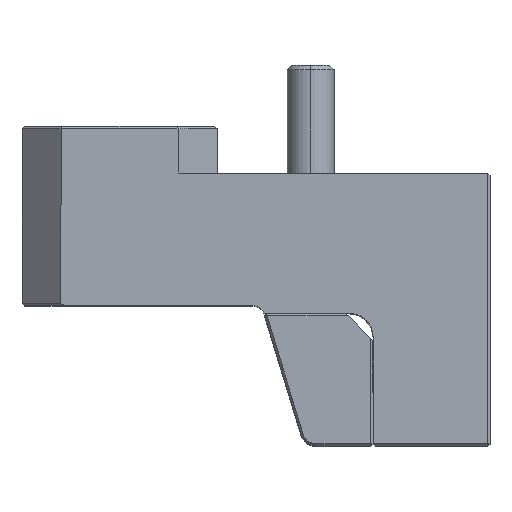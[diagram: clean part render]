
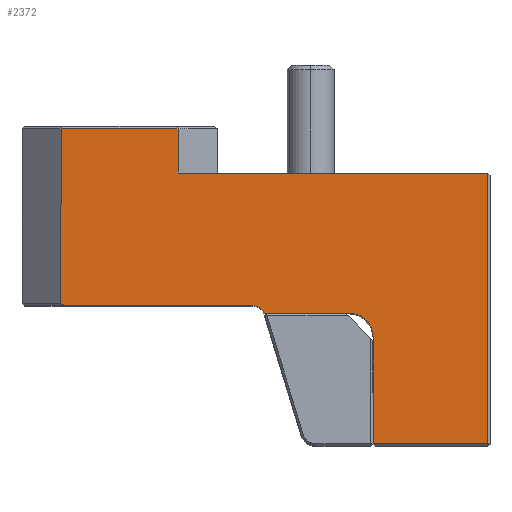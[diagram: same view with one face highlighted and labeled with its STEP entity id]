
A CAD part, top view. The second image highlights one B-rep face of the part: STEP entity #2372.
In plain terms, the highlighted planar face has unit normal (0, 0, 1).
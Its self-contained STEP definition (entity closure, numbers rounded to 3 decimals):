
#40 = VECTOR ( 'NONE', #1511, 1000. ) ;
#41 = AXIS2_PLACEMENT_3D ( 'NONE', #1491, #1516, #1517 ) ;
#43 = VECTOR ( 'NONE', #1482, 1000. ) ;
#51 = VECTOR ( 'NONE', #1501, 1000. ) ;
#216 = VERTEX_POINT ( 'NONE', #3045 ) ;
#238 = VERTEX_POINT ( 'NONE', #3066 ) ;
#251 = VERTEX_POINT ( 'NONE', #3037 ) ;
#539 = CARTESIAN_POINT ( 'NONE',  ( -19.576, 0., 20. ) ) ;
#540 = CARTESIAN_POINT ( 'NONE',  ( 6., -1., 20. ) ) ;
#542 = CARTESIAN_POINT ( 'NONE',  ( -5., 22.7, 20. ) ) ;
#546 = CARTESIAN_POINT ( 'NONE',  ( -5., 17., 20. ) ) ;
#551 = CARTESIAN_POINT ( 'NONE',  ( 20., -17.7, 20. ) ) ;
#571 = CARTESIAN_POINT ( 'NONE',  ( 34.7, -17.7, 20. ) ) ;
#573 = CARTESIAN_POINT ( 'NONE',  ( 20., -4., 20. ) ) ;
#583 = CARTESIAN_POINT ( 'NONE',  ( -20., 22.7, 20. ) ) ;
#586 = CARTESIAN_POINT ( 'NONE',  ( 17., -1., 20. ) ) ;
#1158 = LINE ( 'NONE', #1197, #3433 ) ;
#1163 = DIRECTION ( 'NONE',  ( -1., 0., 0. ) ) ;
#1187 = DIRECTION ( 'NONE',  ( 0., 0., -1. ) ) ;
#1192 = CARTESIAN_POINT ( 'NONE',  ( 17., -4., 20. ) ) ;
#1197 = CARTESIAN_POINT ( 'NONE',  ( -20., -1.5, 20. ) ) ;
#1219 = DIRECTION ( 'NONE',  ( 1., 0., 0. ) ) ;
#1226 = DIRECTION ( 'NONE',  ( 0., -1., 0. ) ) ;
#1232 = CARTESIAN_POINT ( 'NONE',  ( -25., 0., 20. ) ) ;
#1239 = LINE ( 'NONE', #1232, #3431 ) ;
#1266 = LINE ( 'NONE', #1286, #3434 ) ;
#1267 = DIRECTION ( 'NONE',  ( -1., 0., 0. ) ) ;
#1286 = CARTESIAN_POINT ( 'NONE',  ( 4.586, 22.7, 20. ) ) ;
#1480 = CARTESIAN_POINT ( 'NONE',  ( 34.7, -1.5, 20. ) ) ;
#1482 = DIRECTION ( 'NONE',  ( 0., 1., 0. ) ) ;
#1489 = LINE ( 'NONE', #1494, #40 ) ;
#1491 = CARTESIAN_POINT ( 'NONE',  ( 4.586, -1.5, 20. ) ) ;
#1492 = FACE_OUTER_BOUND ( 'NONE', #2905, .T. ) ;
#1494 = CARTESIAN_POINT ( 'NONE',  ( -21.384, 1.279, 20. ) ) ;
#1499 = LINE ( 'NONE', #1500, #51 ) ;
#1500 = CARTESIAN_POINT ( 'NONE',  ( -5., -1.5, 20. ) ) ;
#1501 = DIRECTION ( 'NONE',  ( 0., 1., 0. ) ) ;
#1504 = LINE ( 'NONE', #1480, #43 ) ;
#1508 = PLANE ( 'NONE',  #41 ) ;
#1511 = DIRECTION ( 'NONE',  ( 0.816, -0.577, 0. ) ) ;
#1516 = DIRECTION ( 'NONE',  ( 0., 0., -1. ) ) ;
#1517 = DIRECTION ( 'NONE',  ( -1., 0., 0. ) ) ;
#1831 = LINE ( 'NONE', #1836, #3404 ) ;
#1836 = CARTESIAN_POINT ( 'NONE',  ( 35., 17., 20. ) ) ;
#1837 = LINE ( 'NONE', #1870, #3444 ) ;
#1840 = DIRECTION ( 'NONE',  ( -1., 0., 0. ) ) ;
#1855 = DIRECTION ( 'NONE',  ( 1., 0., 0. ) ) ;
#1870 = CARTESIAN_POINT ( 'NONE',  ( 4.586, -17.7, 20. ) ) ;
#2127 = VECTOR ( 'NONE', #3759, 1000. ) ;
#2136 = CIRCLE ( 'NONE', #2157, 1.5 ) ;
#2154 = VECTOR ( 'NONE', #3763, 1000. ) ;
#2157 = AXIS2_PLACEMENT_3D ( 'NONE', #3745, #3770, #3771 ) ;
#2205 = EDGE_CURVE ( 'NONE', #3636, #3660, #3727, .T. ) ;
#2208 = EDGE_CURVE ( 'NONE', #3646, #3631, #3753, .T. ) ;
#2214 = EDGE_CURVE ( 'NONE', #216, #3646, #2136, .T. ) ;
#2275 = EDGE_CURVE ( 'NONE', #3631, #3636, #3480, .T. ) ;
#2297 = EDGE_CURVE ( 'NONE', #3641, #251, #1158, .T. ) ;
#2298 = EDGE_CURVE ( 'NONE', #3673, #216, #1239, .T. ) ;
#2307 = EDGE_CURVE ( 'NONE', #3657, #3641, #1266, .T. ) ;
#2321 = EDGE_CURVE ( 'NONE', #238, #3658, #1831, .T. ) ;
#2323 = EDGE_CURVE ( 'NONE', #3660, #3635, #1837, .T. ) ;
#2372 = ADVANCED_FACE ( 'NONE', ( #1492 ), #1508, .F. ) ;
#2378 = EDGE_CURVE ( 'NONE', #251, #3673, #1489, .T. ) ;
#2379 = EDGE_CURVE ( 'NONE', #3635, #238, #1504, .T. ) ;
#2381 = EDGE_CURVE ( 'NONE', #3658, #3657, #1499, .T. ) ;
#2905 = EDGE_LOOP ( 'NONE', ( #3174, #3219, #3220, #3226, #3314, #3324, #3274, #3262, #3334, #3289, #3288, #3326 ) ) ;
#3037 = CARTESIAN_POINT ( 'NONE',  ( -20., 0.3, 20. ) ) ;
#3045 = CARTESIAN_POINT ( 'NONE',  ( 4.586, 0., 20. ) ) ;
#3066 = CARTESIAN_POINT ( 'NONE',  ( 34.7, 17., 20. ) ) ;
#3174 = ORIENTED_EDGE ( 'NONE', *, *, #2208, .T. ) ;
#3219 = ORIENTED_EDGE ( 'NONE', *, *, #2275, .T. ) ;
#3220 = ORIENTED_EDGE ( 'NONE', *, *, #2205, .T. ) ;
#3226 = ORIENTED_EDGE ( 'NONE', *, *, #2323, .T. ) ;
#3262 = ORIENTED_EDGE ( 'NONE', *, *, #2307, .T. ) ;
#3274 = ORIENTED_EDGE ( 'NONE', *, *, #2381, .T. ) ;
#3288 = ORIENTED_EDGE ( 'NONE', *, *, #2298, .T. ) ;
#3289 = ORIENTED_EDGE ( 'NONE', *, *, #2378, .T. ) ;
#3314 = ORIENTED_EDGE ( 'NONE', *, *, #2379, .T. ) ;
#3324 = ORIENTED_EDGE ( 'NONE', *, *, #2321, .T. ) ;
#3326 = ORIENTED_EDGE ( 'NONE', *, *, #2214, .T. ) ;
#3334 = ORIENTED_EDGE ( 'NONE', *, *, #2297, .T. ) ;
#3404 = VECTOR ( 'NONE', #1840, 1000. ) ;
#3431 = VECTOR ( 'NONE', #1219, 1000. ) ;
#3433 = VECTOR ( 'NONE', #1226, 1000. ) ;
#3434 = VECTOR ( 'NONE', #1267, 1000. ) ;
#3444 = VECTOR ( 'NONE', #1855, 1000. ) ;
#3480 = CIRCLE ( 'NONE', #3524, 3. ) ;
#3524 = AXIS2_PLACEMENT_3D ( 'NONE', #1192, #1187, #1163 ) ;
#3631 = VERTEX_POINT ( 'NONE', #586 ) ;
#3635 = VERTEX_POINT ( 'NONE', #571 ) ;
#3636 = VERTEX_POINT ( 'NONE', #573 ) ;
#3641 = VERTEX_POINT ( 'NONE', #583 ) ;
#3646 = VERTEX_POINT ( 'NONE', #540 ) ;
#3657 = VERTEX_POINT ( 'NONE', #542 ) ;
#3658 = VERTEX_POINT ( 'NONE', #546 ) ;
#3660 = VERTEX_POINT ( 'NONE', #551 ) ;
#3673 = VERTEX_POINT ( 'NONE', #539 ) ;
#3727 = LINE ( 'NONE', #3761, #2127 ) ;
#3745 = CARTESIAN_POINT ( 'NONE',  ( 4.586, -1.5, 20. ) ) ;
#3753 = LINE ( 'NONE', #3762, #2154 ) ;
#3759 = DIRECTION ( 'NONE',  ( 0., -1., 0. ) ) ;
#3761 = CARTESIAN_POINT ( 'NONE',  ( 20., -1., 20. ) ) ;
#3762 = CARTESIAN_POINT ( 'NONE',  ( 6., -1., 20. ) ) ;
#3763 = DIRECTION ( 'NONE',  ( 1., 0., 0. ) ) ;
#3770 = DIRECTION ( 'NONE',  ( 0., 0., -1. ) ) ;
#3771 = DIRECTION ( 'NONE',  ( -1., 0., 0. ) ) ;
